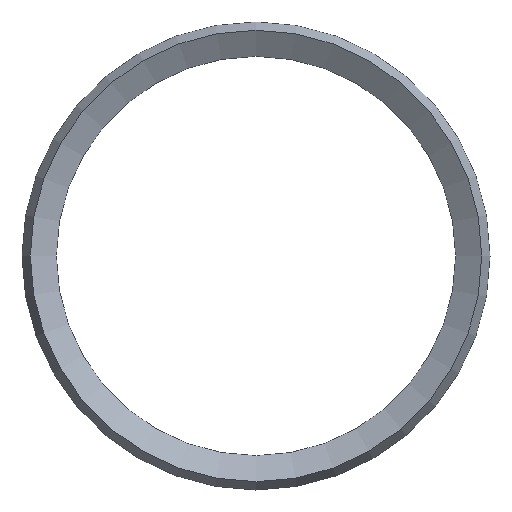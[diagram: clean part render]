
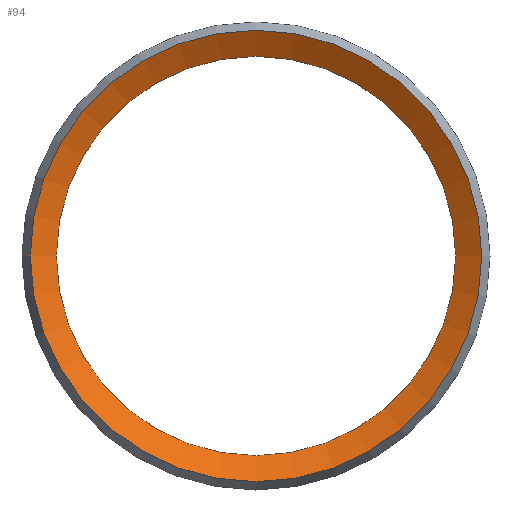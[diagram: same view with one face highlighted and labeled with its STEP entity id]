
A CAD part, left-side view. The second image highlights one B-rep face of the part: STEP entity #94.
In plain terms, the highlighted conical face has half-angle 59.483 degrees and reference radius 6.498 mm.
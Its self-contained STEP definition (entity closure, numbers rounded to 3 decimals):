
#17=FACE_OUTER_BOUND('',#21,.T.);
#21=EDGE_LOOP('',(#76,#77,#78,#79,#80,#81));
#25=LINE('',#181,#29);
#29=VECTOR('',#156,6.498);
#30=CIRCLE('',#116,6.1);
#33=CIRCLE('',#119,6.1);
#36=CIRCLE('',#124,6.896);
#37=CIRCLE('',#125,6.896);
#38=VERTEX_POINT('',#159);
#39=VERTEX_POINT('',#160);
#44=VERTEX_POINT('',#175);
#45=VERTEX_POINT('',#176);
#46=EDGE_CURVE('',#38,#39,#30,.T.);
#50=EDGE_CURVE('',#39,#38,#33,.T.);
#54=EDGE_CURVE('',#44,#45,#36,.T.);
#55=EDGE_CURVE('',#45,#44,#37,.T.);
#57=EDGE_CURVE('',#45,#39,#25,.T.);
#76=ORIENTED_EDGE('',*,*,#54,.T.);
#77=ORIENTED_EDGE('',*,*,#57,.T.);
#78=ORIENTED_EDGE('',*,*,#46,.F.);
#79=ORIENTED_EDGE('',*,*,#50,.F.);
#80=ORIENTED_EDGE('',*,*,#57,.F.);
#81=ORIENTED_EDGE('',*,*,#55,.T.);
#85=CONICAL_SURFACE('',#126,6.498,1.038);
#94=ADVANCED_FACE('',(#17),#85,.F.);
#116=AXIS2_PLACEMENT_3D('',#161,#131,#132);
#119=AXIS2_PLACEMENT_3D('',#167,#138,#139);
#124=AXIS2_PLACEMENT_3D('',#177,#149,#150);
#125=AXIS2_PLACEMENT_3D('',#178,#151,#152);
#126=AXIS2_PLACEMENT_3D('',#180,#154,#155);
#131=DIRECTION('center_axis',(-1.,0.,0.));
#132=DIRECTION('ref_axis',(0.,-1.,0.));
#138=DIRECTION('center_axis',(-1.,0.,0.));
#139=DIRECTION('ref_axis',(0.,-1.,0.));
#149=DIRECTION('center_axis',(-1.,0.,0.));
#150=DIRECTION('ref_axis',(0.,-1.,0.));
#151=DIRECTION('center_axis',(-1.,0.,0.));
#152=DIRECTION('ref_axis',(0.,-1.,0.));
#154=DIRECTION('center_axis',(-1.,0.,0.));
#155=DIRECTION('ref_axis',(0.,-1.,0.));
#156=DIRECTION('',(0.508,-0.861,0.));
#159=CARTESIAN_POINT('',(0.039,-6.1,0.));
#160=CARTESIAN_POINT('',(0.039,6.1,0.));
#161=CARTESIAN_POINT('Origin',(0.039,0.,0.));
#167=CARTESIAN_POINT('Origin',(0.039,0.,0.));
#175=CARTESIAN_POINT('',(-0.431,-6.896,0.));
#176=CARTESIAN_POINT('',(-0.431,6.896,0.));
#177=CARTESIAN_POINT('Origin',(-0.431,0.,0.));
#178=CARTESIAN_POINT('Origin',(-0.431,0.,0.));
#180=CARTESIAN_POINT('Origin',(-0.196,0.,0.));
#181=CARTESIAN_POINT('',(-0.196,6.498,0.));
